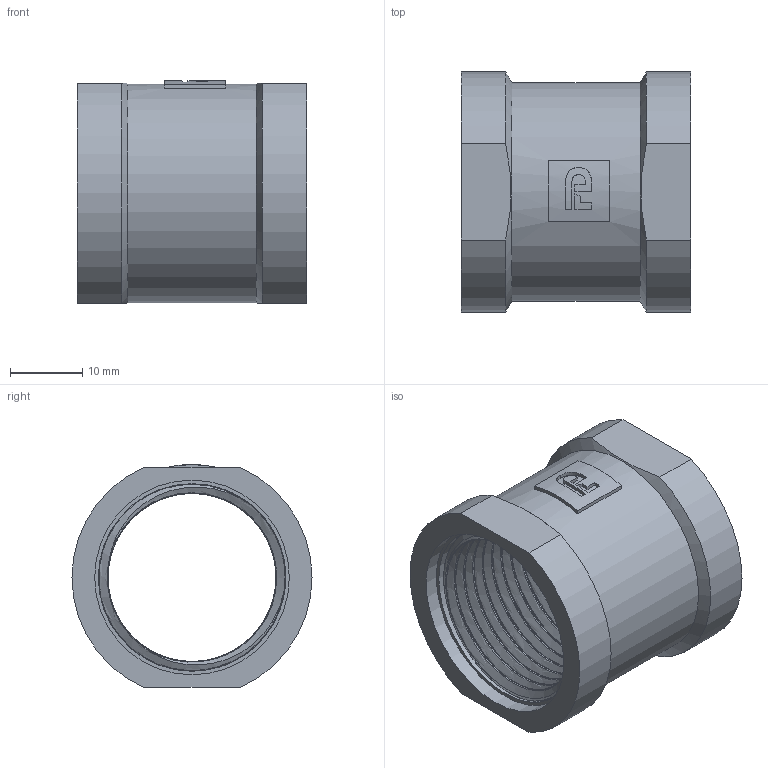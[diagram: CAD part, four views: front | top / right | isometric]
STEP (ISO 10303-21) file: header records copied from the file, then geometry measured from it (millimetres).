
FILE_DESCRIPTION(/* description */ (''),/* implementation_level */ '2;1');
FILE_NAME(/* name */ 'C:\Users\Doom\Desktop\Фадотех\Резьба\M02 17.03.2020\M02 17.03.2020.stp',/* time_stamp */ '2021-12-22T00:46:26+02:00',/* author */ ('Doom'),/* organization */ (''),/* preprocessor_version */ 'ST-DEVELOPER v18',/* originating_system */ 'Autodesk Inventor 2020',/* authorisation */ '');
FILE_SCHEMA (('AUTOMOTIVE_DESIGN { 1 0 10303 214 3 1 1 }'));
Length unit declared in the file: millimetre
Products named in the file (1): M02 17.03.2020
Bounding box: 31.8 x 33.3 x 30.9 mm (x, y, z)
Volume: 10045.5 mm3; surface area: 13183.7 mm2
Topology: 2 solids, 2 shells, 70 faces, 187 edges, 126 vertices
Faces by surface type: cylinder 30, plane 28, bspline 10, cone 2
Full cylindrical faces by diameter (mm): 23.31 x16, 26 x2, 27 x2, 30.3 x1
Entity records: 10296 total; most frequent: CARTESIAN_POINT 8590, ORIENTED_EDGE 374, DIRECTION 302, EDGE_CURVE 187, VERTEX_POINT 126, AXIS2_PLACEMENT_3D 115, EDGE_LOOP 79, LINE 72
